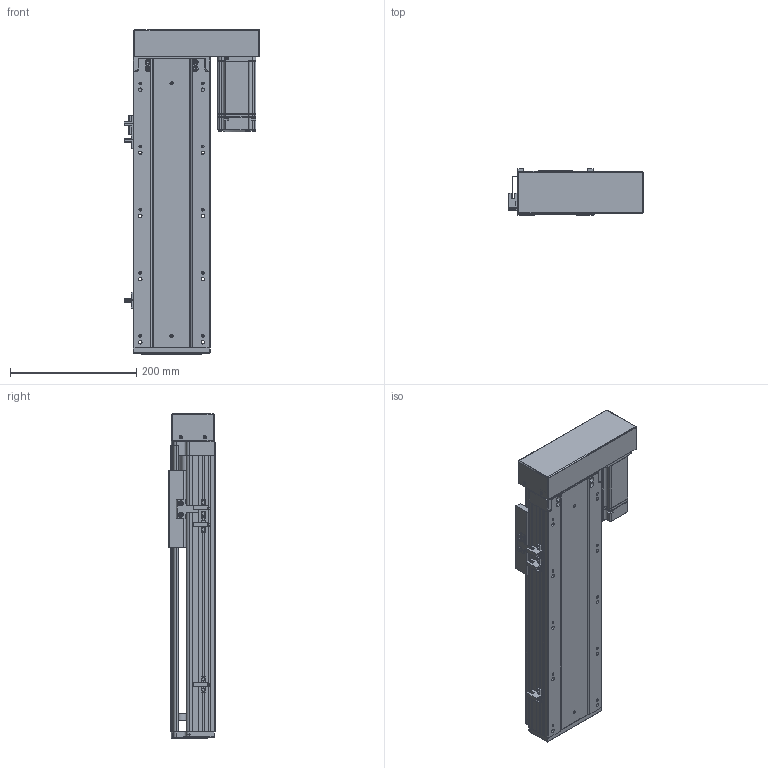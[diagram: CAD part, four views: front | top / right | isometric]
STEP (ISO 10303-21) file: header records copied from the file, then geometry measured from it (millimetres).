
FILE_DESCRIPTION (( 'STEP AP203' ), '1' );
FILE_NAME ('RY120-L2020-300-RK.SLDASM_250.step', '2021-03-12T07:13:56', ( '盈信电脑' ), ( '东莞市道滘镇水果街19号' ), 'SwSTEP 2.0', 'SolidWorks 2012', '' );
FILE_SCHEMA (( 'CONFIG_CONTROL_DESIGN' ));
Products named in the file (15): RY120-L2020-300-RK.SLDASM_250; RY120-400W萇儂傷-酘衵殏_450; 侂狟400W侜督萇儂; RY120蛌殏萇儂欶; 15; RY120酘殏萇儂假蚾啣; RY120转拆电端丝杆支撑座(20丝杆，7002轴承); RY120外置感应片(140共用）; 滅袉蝶18-24; 覜茼ん672; RY120綴裔啣; 滅袉蝶18-10; RY120-300-RK蛌殏倰第奻裔啣_250; RY120臏賑輸(20蹟譫); RY120-300-RK蛌殏倰第菁釱_250
Assembly tree (17 placements, depth 4):
  RY120-L2020-300-RK.SLDASM_250
    RY120-300-RK蛌殏倰第菁釱_250
    RY120-300-RK蛌殏倰第奻裔啣_250
    RY120臏賑輸(20蹟譫)
    RY120綴裔啣
    覜茼ん672  x3
    滅袉蝶18-10
    滅袉蝶18-24  x2
    RY120外置感应片(140共用）
    RY120转拆电端丝杆支撑座(20丝杆，7002轴承)
    RY120-400W萇儂傷-酘衵殏_450
      RY120酘殏萇儂假蚾啣
      侂狟400W侜督萇儂
        15
      RY120蛌殏萇儂欶
Bounding box: 214.2 x 73 x 514 mm (x, y, z)
Volume: 1904515.2 mm3; surface area: 666056.1 mm2
Topology: 16 solids, 16 shells, 2288 faces, 6259 edges, 4016 vertices
Faces by surface type: plane 1196, cylinder 804, cone 183, bspline 105
Entity records: 74931 total; most frequent: CARTESIAN_POINT 20611, ORIENTED_EDGE 11270, DIRECTION 10467, EDGE_CURVE 5635, VERTEX_POINT 3684, LINE 3593, VECTOR 3593, AXIS2_PLACEMENT_3D 3437
